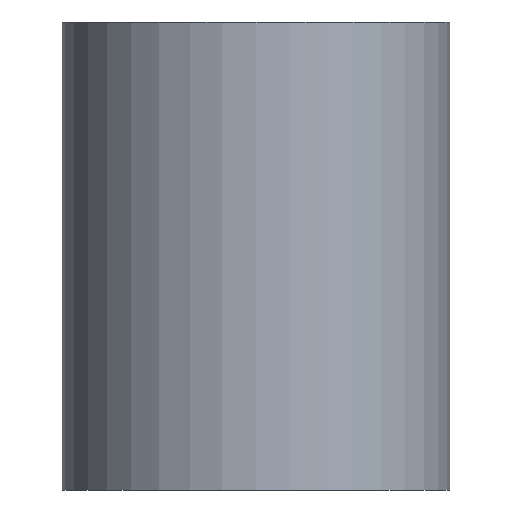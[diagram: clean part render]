
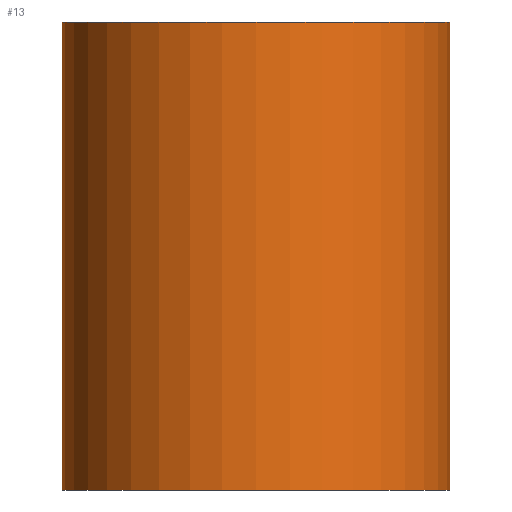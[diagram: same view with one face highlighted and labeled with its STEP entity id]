
A CAD part, front view. The second image highlights one B-rep face of the part: STEP entity #13.
In plain terms, the highlighted cylindrical face has radius 31.5 mm (diameter 63 mm), a partial arc.
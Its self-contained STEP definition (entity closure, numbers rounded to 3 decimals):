
#4 = DIRECTION ( 'NONE',  ( 1., 0., 0. ) ) ;
#10 = VECTOR ( 'NONE', #135, 1000. ) ;
#13 = ADVANCED_FACE ( 'NONE', ( #64 ), #182, .T. ) ;
#23 = CARTESIAN_POINT ( 'NONE',  ( 0., 0., 76. ) ) ;
#24 = VERTEX_POINT ( 'NONE', #97 ) ;
#27 = DIRECTION ( 'NONE',  ( 0., 0., 1. ) ) ;
#30 = VERTEX_POINT ( 'NONE', #117 ) ;
#31 = CARTESIAN_POINT ( 'NONE',  ( 0., 0., 0. ) ) ;
#34 = AXIS2_PLACEMENT_3D ( 'NONE', #31, #190, #54 ) ;
#48 = AXIS2_PLACEMENT_3D ( 'NONE', #70, #27, #4 ) ;
#53 = EDGE_CURVE ( 'NONE', #30, #94, #106, .T. ) ;
#54 = DIRECTION ( 'NONE',  ( 1., 0., 0. ) ) ;
#64 = FACE_OUTER_BOUND ( 'NONE', #89, .T. ) ;
#68 = CIRCLE ( 'NONE', #34, 31.5 ) ;
#70 = CARTESIAN_POINT ( 'NONE',  ( 0., 0., 76. ) ) ;
#71 = CARTESIAN_POINT ( 'NONE',  ( 31.5, 0., 0. ) ) ;
#82 = DIRECTION ( 'NONE',  ( -1., 0., 0. ) ) ;
#89 = EDGE_LOOP ( 'NONE', ( #98, #137, #151, #159 ) ) ;
#93 = EDGE_CURVE ( 'NONE', #24, #30, #170, .T. ) ;
#94 = VERTEX_POINT ( 'NONE', #71 ) ;
#97 = CARTESIAN_POINT ( 'NONE',  ( -31.5, 0., 76. ) ) ;
#98 = ORIENTED_EDGE ( 'NONE', *, *, #53, .F. ) ;
#105 = CARTESIAN_POINT ( 'NONE',  ( -31.5, 0., 76. ) ) ;
#106 = LINE ( 'NONE', #176, #10 ) ;
#117 = CARTESIAN_POINT ( 'NONE',  ( 31.5, 0., 76. ) ) ;
#120 = DIRECTION ( 'NONE',  ( 0., 0., -1. ) ) ;
#135 = DIRECTION ( 'NONE',  ( 0., 0., -1. ) ) ;
#137 = ORIENTED_EDGE ( 'NONE', *, *, #93, .F. ) ;
#142 = CARTESIAN_POINT ( 'NONE',  ( -31.5, 0., 0. ) ) ;
#147 = VECTOR ( 'NONE', #120, 1000. ) ;
#151 = ORIENTED_EDGE ( 'NONE', *, *, #204, .T. ) ;
#158 = DIRECTION ( 'NONE',  ( 0., 0., -1. ) ) ;
#159 = ORIENTED_EDGE ( 'NONE', *, *, #163, .T. ) ;
#163 = EDGE_CURVE ( 'NONE', #195, #94, #68, .T. ) ;
#170 = CIRCLE ( 'NONE', #48, 31.5 ) ;
#176 = CARTESIAN_POINT ( 'NONE',  ( 31.5, 0., 76. ) ) ;
#182 = CYLINDRICAL_SURFACE ( 'NONE', #214, 31.5 ) ;
#190 = DIRECTION ( 'NONE',  ( 0., 0., 1. ) ) ;
#192 = LINE ( 'NONE', #105, #147 ) ;
#195 = VERTEX_POINT ( 'NONE', #142 ) ;
#204 = EDGE_CURVE ( 'NONE', #24, #195, #192, .T. ) ;
#214 = AXIS2_PLACEMENT_3D ( 'NONE', #23, #158, #82 ) ;
